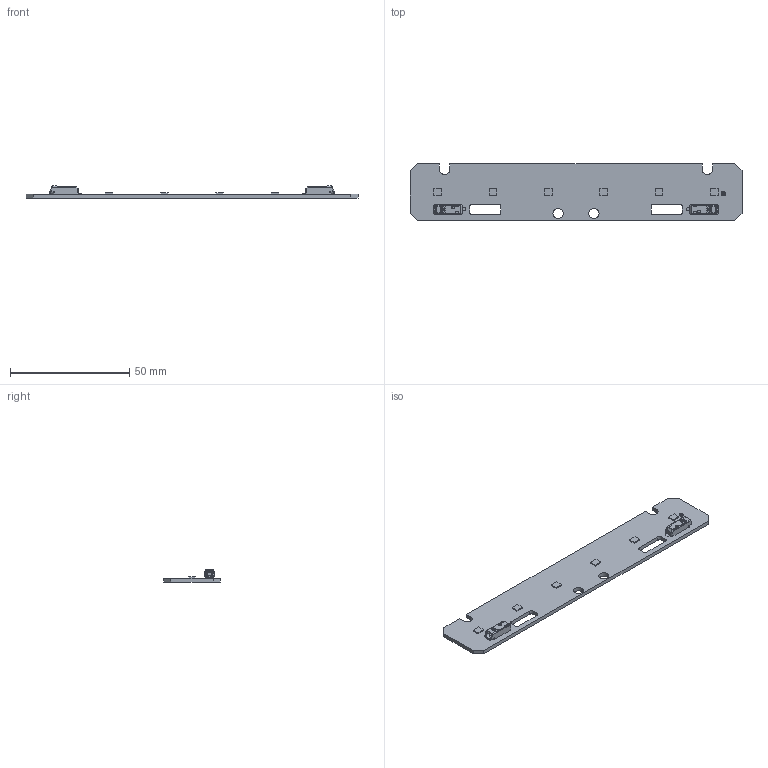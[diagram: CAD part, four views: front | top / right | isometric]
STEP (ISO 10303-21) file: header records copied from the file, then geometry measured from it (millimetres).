
FILE_DESCRIPTION((''),'2;1');
FILE_NAME('16208803_LLE-G5-24X140-325LM','2018-08-21T11:05:30',('bernhard.fink'),(''),'CREO PARAMETRIC BY PTC INC, 2017380','CREO PARAMETRIC BY PTC INC, 2017380','');
FILE_SCHEMA(('AUTOMOTIVE_DESIGN { 1 0 10303 214 1 1 1 1 }'));
Length unit declared in the file: millimetre
Products named in the file (1): 16208803_LLE-G5-24X140-325LM
Bounding box: 139 x 23.6 x 5.1 mm (x, y, z)
Volume: 5361.4 mm3; surface area: 7317.7 mm2
Topology: 1 solids, 1 shells, 559 faces, 1448 edges, 900 vertices
Faces by surface type: plane 239, cylinder 142, bspline 120, cone 34, torus 12, sphere 12
Entity records: 30022 total; most frequent: CARTESIAN_POINT 8851, ORIENTED_EDGE 2868, DIRECTION 2154, PRESENTATION_STYLE_ASSIGNMENT 1994, STYLED_ITEM 1435, CURVE_STYLE 1434, EDGE_CURVE 1434, VERTEX_POINT 898
